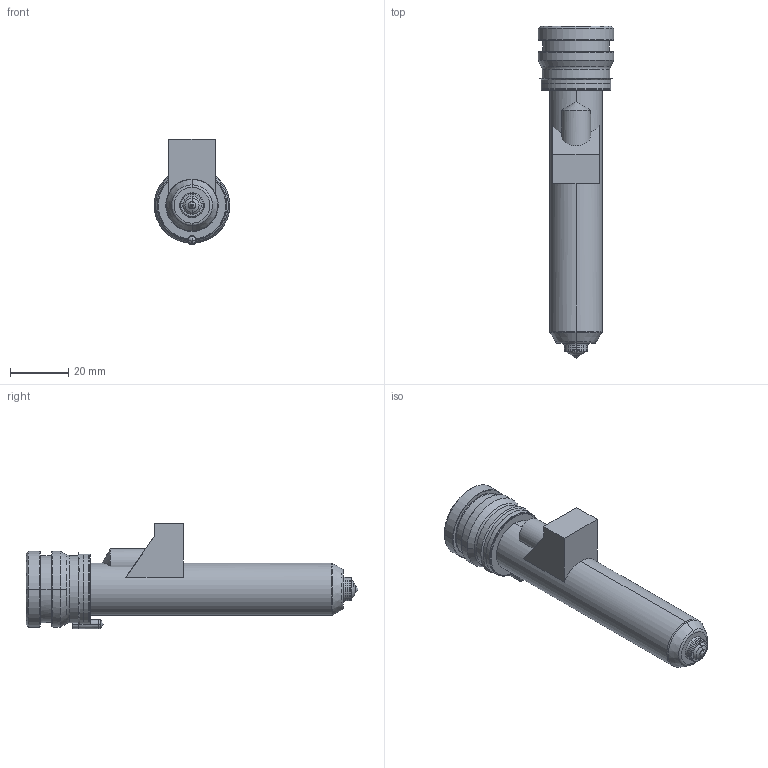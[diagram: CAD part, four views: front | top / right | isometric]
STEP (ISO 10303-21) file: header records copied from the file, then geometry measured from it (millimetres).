
FILE_DESCRIPTION((''),'2;1');
FILE_NAME('TH18096-M-1GLT-PK-JG','2023-12-14T',('umhib'),('Thermoplay S.p.A.'),'PRO/ENGINEER BY PARAMETRIC TECHNOLOGY CORPORATION, 2017170','PRO/ENGINEER BY PARAMETRIC TECHNOLOGY CORPORATION, 2017170','');
FILE_SCHEMA(('CONFIG_CONTROL_DESIGN'));
Length unit declared in the file: millimetre
Products named in the file (1): TH18096-M-1GLT-PK-JG
Bounding box: 26 x 114 x 36.1 mm (x, y, z)
Volume: 24267.7 mm3; surface area: 18862 mm2
Topology: 1 solids, 2 shells, 413 faces, 1052 edges, 647 vertices
Faces by surface type: cylinder 160, plane 92, cone 64, torus 64, bspline 22, sphere 9, extrusion 2
Entity records: 16933 total; most frequent: CARTESIAN_POINT 4935, DIRECTION 2166, ORIENTED_EDGE 2078, EDGE_CURVE 1041, AXIS2_PLACEMENT_3D 881, VERTEX_POINT 647, CIRCLE 491, EDGE_LOOP 441
